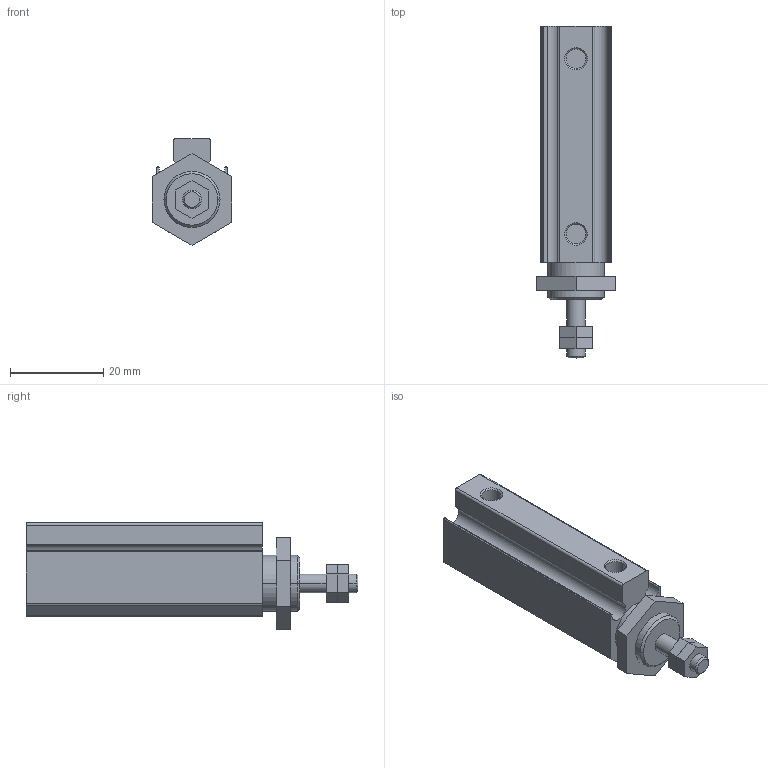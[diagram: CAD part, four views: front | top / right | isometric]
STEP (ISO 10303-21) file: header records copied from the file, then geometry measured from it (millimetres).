
FILE_DESCRIPTION((''),'2;1');
FILE_NAME('B:\CHANTO-3D-已完成\NEW\AAP\AAP-3D\AAP10X25.stp','2010-08-19T19:38:48',('Administrator'),(''),'Autodesk Inventor 8','Autodesk Inventor 8','');
FILE_SCHEMA(('AUTOMOTIVE_DESIGN { 1 0 10303 214 1 1 1 1 }'));
Length unit declared in the file: millimetre
Products named in the file (1): AAP10X25
Bounding box: 17 x 71 x 22.82 mm (x, y, z)
Volume: 13208 mm3; surface area: 5392.4 mm2
Topology: 1 solids, 1 shells, 76 faces, 184 edges, 120 vertices
Faces by surface type: plane 40, cylinder 28, cone 8
Entity records: 2251 total; most frequent: DIRECTION 402, CARTESIAN_POINT 381, ORIENTED_EDGE 368, EDGE_CURVE 184, AXIS2_PLACEMENT_3D 141, VERTEX_POINT 120, VECTOR 120, LINE 120
